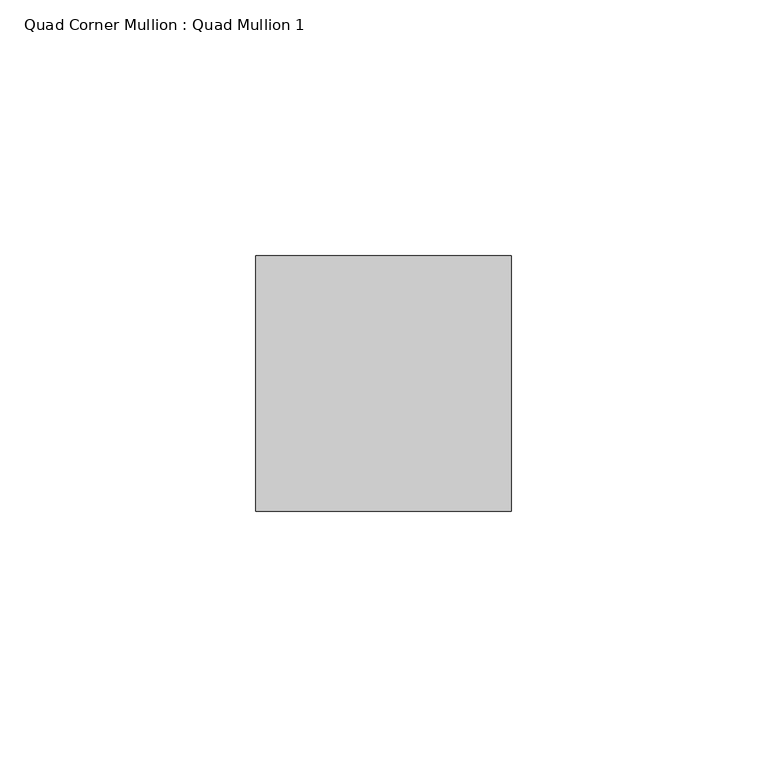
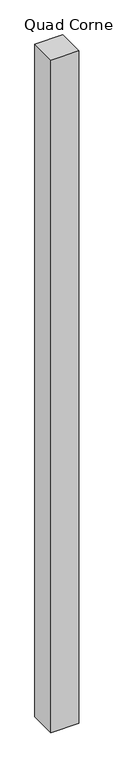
"""IFC4 building model written with IfcOpenShell, lengths in millimetres: member geometry, Quad Corner Mullion : Quad Mullion 1."""

from ifc_helpers import new_model, si_unit, frame, origin, place, context, project, spatial, polyline, outline, extrude, source, transform, mapped, element, save


def quad_corner_mullion_quad_mullion_1_6cf5b6d6(model_context):
    return source(origin(), model_context, "Body", "SweptSolid", [
        extrude(outline(polyline([(25.0, 25.0), (25.0, -25.0), (-25.0, -25.0), (-25.0, 25.0), (25.0, 25.0)])), frame((0.0, 0.0, -1277.2767368), z_axis=(0.0, 0.0, 1.0), x_axis=(1.0, 0.0, 0.0)), (0.0, 0.0, 1.0), 1277.2767368),
    ])


if __name__ == "__main__":
    model = new_model("IFC4")
    model_context = context("Model", 3, world=origin())
    ifc_project = project(units=[si_unit("LENGTHUNIT", "METRE", prefix="MILLI")], contexts=[model_context])
    site = spatial("IfcSite", under=ifc_project)
    building = spatial("IfcBuilding", under=site)
    placement = place(None, origin())
    quad_corner_mullion_quad_mullion_1_shape = quad_corner_mullion_quad_mullion_1_6cf5b6d6(model_context)
    element("IfcMember", 1, ObjectType="Quad Corner Mullion : Quad Mullion 1", at=placement, inside=building, context=model_context, shape_type="MappedRepresentation", body=[
        mapped(quad_corner_mullion_quad_mullion_1_shape, transform((0.0, 0.0, 0.0), x_axis=(1.0, 0.0, 0.0), y_axis=(0.0, 1.0, 0.0), z_axis=(0.0, 0.0, 1.0))),
    ])
    save(model, "model.ifc")
